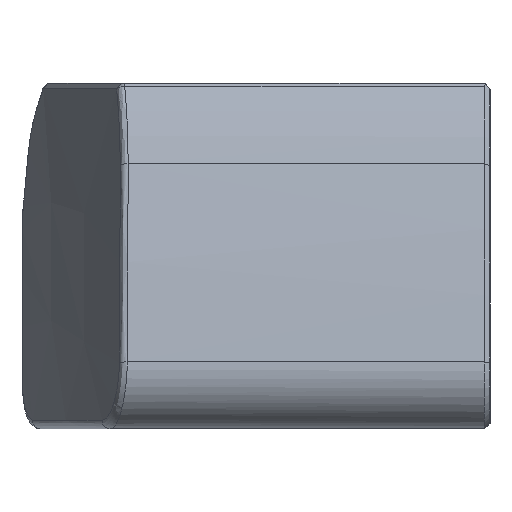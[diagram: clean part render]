
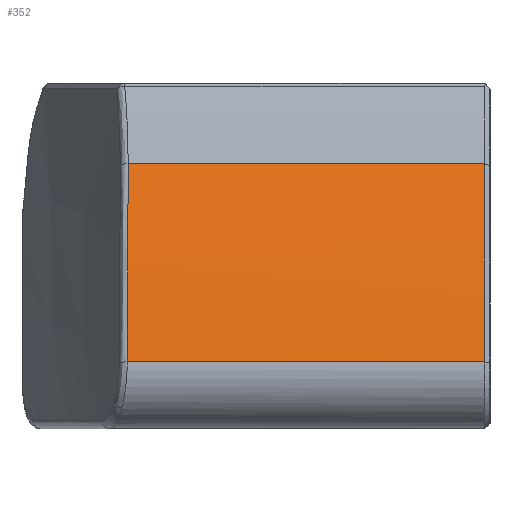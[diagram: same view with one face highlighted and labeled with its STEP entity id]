
A CAD part, left-side view. The second image highlights one B-rep face of the part: STEP entity #352.
In plain terms, the highlighted cylindrical face has radius 118 mm (diameter 236 mm), a partial arc.
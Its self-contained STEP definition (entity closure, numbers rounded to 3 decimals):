
#352 = ADVANCED_FACE ( 'NONE', ( #2152 ), #2157, .T. ) ;
#442 = EDGE_CURVE ( 'NONE', #624, #658, #1032, .T. ) ;
#443 = EDGE_CURVE ( 'NONE', #676, #624, #3140, .T. ) ;
#444 = EDGE_CURVE ( 'NONE', #658, #671, #3143, .T. ) ;
#445 = EDGE_CURVE ( 'NONE', #671, #676, #2047, .T. ) ;
#548 = EDGE_LOOP ( 'NONE', ( #958, #960, #959, #961 ) ) ;
#624 = VERTEX_POINT ( 'NONE', #3442 ) ;
#658 = VERTEX_POINT ( 'NONE', #3457 ) ;
#671 = VERTEX_POINT ( 'NONE', #3466 ) ;
#676 = VERTEX_POINT ( 'NONE', #3471 ) ;
#958 = ORIENTED_EDGE ( 'NONE', *, *, #443, .T. ) ;
#959 = ORIENTED_EDGE ( 'NONE', *, *, #444, .T. ) ;
#960 = ORIENTED_EDGE ( 'NONE', *, *, #442, .T. ) ;
#961 = ORIENTED_EDGE ( 'NONE', *, *, #445, .T. ) ;
#1032 = B_SPLINE_CURVE_WITH_KNOTS ( 'NONE', 3,
 ( #3135, #3136, #3137, #3138 ),
 .UNSPECIFIED., .F., .F.,
 ( 4, 4 ),
 ( 0., 0.015 ),
 .UNSPECIFIED. ) ;
#2047 = CIRCLE ( 'NONE', #2095, 118. ) ;
#2089 = VECTOR ( 'NONE', #3142, 1000. ) ;
#2095 = AXIS2_PLACEMENT_3D ( 'NONE', #3139, #3146, #3147 ) ;
#2106 = AXIS2_PLACEMENT_3D ( 'NONE', #2506, #2507, #2508 ) ;
#2152 = FACE_OUTER_BOUND ( 'NONE', #548, .T. ) ;
#2157 = CYLINDRICAL_SURFACE ( 'NONE', #2106, 118. ) ;
#2245 = VECTOR ( 'NONE', #3145, 1000. ) ;
#2506 = CARTESIAN_POINT ( 'NONE',  ( 0., -5., 0. ) ) ;
#2507 = DIRECTION ( 'NONE',  ( 0., 1., 0. ) ) ;
#2508 = DIRECTION ( 'NONE',  ( 0., 0., 1. ) ) ;
#3135 = CARTESIAN_POINT ( 'NONE',  ( -111.307, 21.172, 39.176 ) ) ;
#3136 = CARTESIAN_POINT ( 'NONE',  ( -112.959, 21.179, 34.483 ) ) ;
#3137 = CARTESIAN_POINT ( 'NONE',  ( -114.308, 21.2, 29.705 ) ) ;
#3138 = CARTESIAN_POINT ( 'NONE',  ( -115.355, 21.235, 24.842 ) ) ;
#3139 = CARTESIAN_POINT ( 'NONE',  ( 0., -4.6, 0. ) ) ;
#3140 = LINE ( 'NONE', #3141, #2089 ) ;
#3141 = CARTESIAN_POINT ( 'NONE',  ( -111.307, -5., 39.176 ) ) ;
#3142 = DIRECTION ( 'NONE',  ( 0., 1., 0. ) ) ;
#3143 = LINE ( 'NONE', #3144, #2245 ) ;
#3144 = CARTESIAN_POINT ( 'NONE',  ( -115.355, -5., 24.842 ) ) ;
#3145 = DIRECTION ( 'NONE',  ( 0., -1., 0. ) ) ;
#3146 = DIRECTION ( 'NONE',  ( 0., 1., 0. ) ) ;
#3147 = DIRECTION ( 'NONE',  ( 0., 0., 1. ) ) ;
#3442 = CARTESIAN_POINT ( 'NONE',  ( -111.307, 21.172, 39.176 ) ) ;
#3457 = CARTESIAN_POINT ( 'NONE',  ( -115.355, 21.235, 24.842 ) ) ;
#3466 = CARTESIAN_POINT ( 'NONE',  ( -115.355, -4.6, 24.842 ) ) ;
#3471 = CARTESIAN_POINT ( 'NONE',  ( -111.307, -4.6, 39.176 ) ) ;
